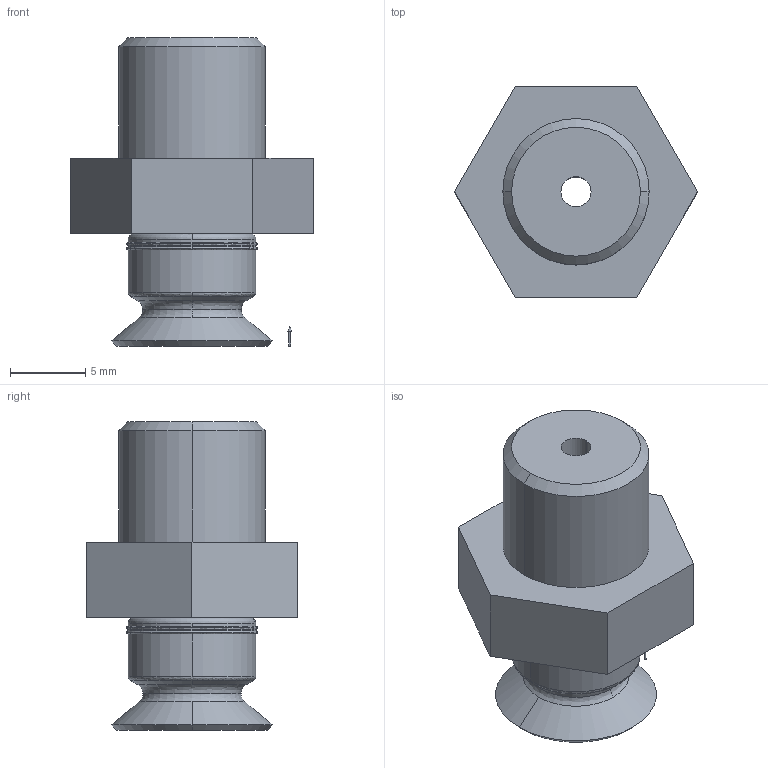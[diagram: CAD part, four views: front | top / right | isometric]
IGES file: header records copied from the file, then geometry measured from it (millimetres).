
Start section: 3D InterOp IGES (v. 2018 1.0.2), Spatial Corp. Copyright (c) 1999-2017.
Global section: file name: schmalz_10_01_01_00279_6dobjrgk77cenpeveumpyxuqb.igs; native system: Spatial Corp.; preprocessor: 3D InterOp ACIS/IGES; author: TraceParts; organization: TraceParts S.A.; date: 20181114.025132; units: millimetre
Bounding box: 16.17 x 14 x 20.5 mm (x, y, z)
Surface area: 1298.2 mm2 (no closed solid volume)
Topology: 0 solids, 0 shells, 66 faces, 320 edges, 318 vertices
Faces by surface type: revolution 52, extrusion 14
